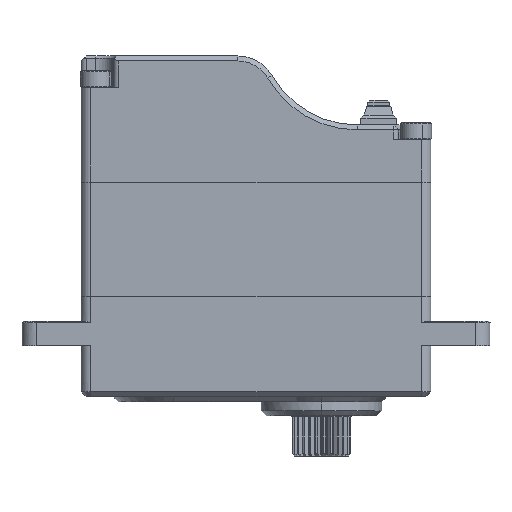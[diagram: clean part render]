
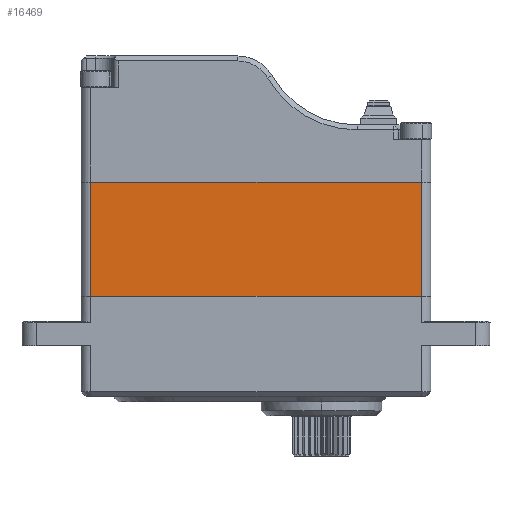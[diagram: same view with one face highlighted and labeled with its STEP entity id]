
A CAD part, left-side view. The second image highlights one B-rep face of the part: STEP entity #16469.
In plain terms, the highlighted planar face has unit normal (-1, 0, 0).
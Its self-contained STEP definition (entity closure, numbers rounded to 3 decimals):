
#1559 = AXIS2_PLACEMENT_3D ( 'NONE', #19224, #5102, #6792 ) ;
#2538 = VERTEX_POINT ( 'NONE', #11494 ) ;
#2965 = DIRECTION ( 'NONE',  ( 0., 1., 0. ) ) ;
#3358 = LINE ( 'NONE', #11680, #19023 ) ;
#3690 = ORIENTED_EDGE ( 'NONE', *, *, #14254, .F. ) ;
#3860 = EDGE_LOOP ( 'NONE', ( #3690, #18228, #9679, #16375 ) ) ;
#4584 = CARTESIAN_POINT ( 'NONE',  ( -71.318, 16.659, -5.5 ) ) ;
#5080 = VERTEX_POINT ( 'NONE', #8810 ) ;
#5102 = DIRECTION ( 'NONE',  ( 1., 0., 0. ) ) ;
#5121 = DIRECTION ( 'NONE',  ( 0., -1., 0. ) ) ;
#6508 = PLANE ( 'NONE',  #1559 ) ;
#6792 = DIRECTION ( 'NONE',  ( 0., 1., 0. ) ) ;
#6982 = DIRECTION ( 'NONE',  ( 0., 0., -1. ) ) ;
#7218 = EDGE_CURVE ( 'NONE', #7773, #18301, #17038, .T. ) ;
#7773 = VERTEX_POINT ( 'NONE', #19337 ) ;
#8069 = VECTOR ( 'NONE', #10966, 1000. ) ;
#8123 = VECTOR ( 'NONE', #2965, 1000. ) ;
#8810 = CARTESIAN_POINT ( 'NONE',  ( -71.318, 19.434, -5.5 ) ) ;
#9679 = ORIENTED_EDGE ( 'NONE', *, *, #19749, .F. ) ;
#10040 = CARTESIAN_POINT ( 'NONE',  ( -71.318, 19.434, 9.315 ) ) ;
#10966 = DIRECTION ( 'NONE',  ( 0., 0., 1. ) ) ;
#11494 = CARTESIAN_POINT ( 'NONE',  ( -71.318, 19.434, 6.1 ) ) ;
#11680 = CARTESIAN_POINT ( 'NONE',  ( -71.318, 52.934, 6.1 ) ) ;
#12151 = CARTESIAN_POINT ( 'NONE',  ( -71.318, 52.934, 6.1 ) ) ;
#12356 = LINE ( 'NONE', #4584, #8123 ) ;
#13693 = EDGE_CURVE ( 'NONE', #2538, #5080, #18588, .T. ) ;
#14254 = EDGE_CURVE ( 'NONE', #18301, #2538, #3358, .T. ) ;
#14369 = VECTOR ( 'NONE', #6982, 1000. ) ;
#16375 = ORIENTED_EDGE ( 'NONE', *, *, #13693, .F. ) ;
#16469 = ADVANCED_FACE ( 'NONE', ( #18059 ), #6508, .F. ) ;
#17038 = LINE ( 'NONE', #18763, #8069 ) ;
#18059 = FACE_OUTER_BOUND ( 'NONE', #3860, .T. ) ;
#18228 = ORIENTED_EDGE ( 'NONE', *, *, #7218, .F. ) ;
#18301 = VERTEX_POINT ( 'NONE', #12151 ) ;
#18588 = LINE ( 'NONE', #10040, #14369 ) ;
#18763 = CARTESIAN_POINT ( 'NONE',  ( -71.318, 52.934, 9.315 ) ) ;
#19023 = VECTOR ( 'NONE', #5121, 1000. ) ;
#19224 = CARTESIAN_POINT ( 'NONE',  ( -71.318, 17.759, 9.315 ) ) ;
#19337 = CARTESIAN_POINT ( 'NONE',  ( -71.318, 52.934, -5.5 ) ) ;
#19749 = EDGE_CURVE ( 'NONE', #5080, #7773, #12356, .T. ) ;
